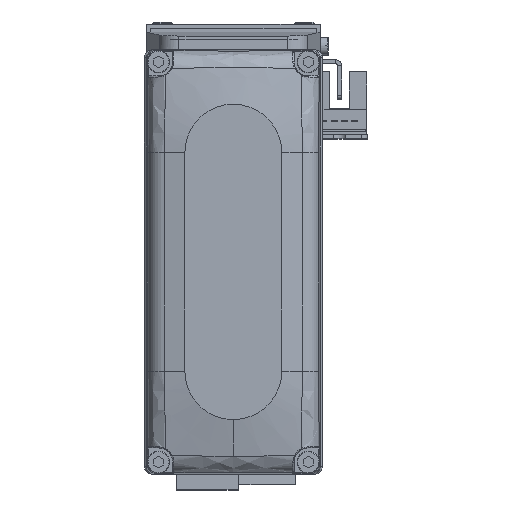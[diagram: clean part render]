
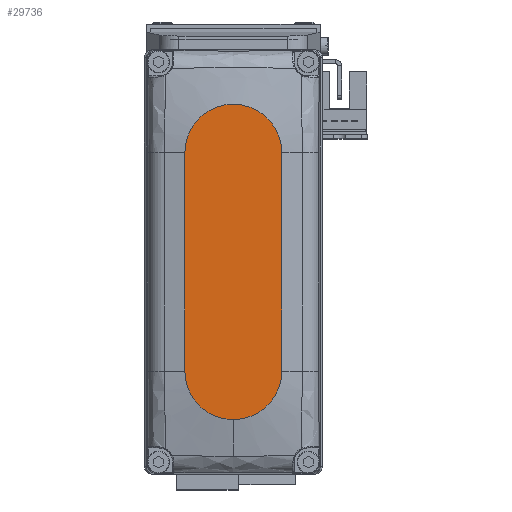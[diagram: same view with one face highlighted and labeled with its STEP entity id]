
A CAD part, top view. The second image highlights one B-rep face of the part: STEP entity #29736.
In plain terms, the highlighted planar face has unit normal (0, 0, 1).
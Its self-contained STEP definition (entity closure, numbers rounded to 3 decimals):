
#528 = CARTESIAN_POINT ( 'NONE',  ( 39., 0., 25. ) ) ;
#715 = LINE ( 'NONE', #12820, #38310 ) ;
#1439 = EDGE_CURVE ( 'NONE', #10622, #22168, #23925, .T. ) ;
#2517 = EDGE_CURVE ( 'NONE', #11120, #19267, #37778, .T. ) ;
#2649 = AXIS2_PLACEMENT_3D ( 'NONE', #11601, #23717, #35823 ) ;
#5355 = CARTESIAN_POINT ( 'NONE',  ( 27., 0., 25. ) ) ;
#5493 = CARTESIAN_POINT ( 'NONE',  ( 27., -12., 25. ) ) ;
#5890 = EDGE_CURVE ( 'NONE', #22168, #18159, #715, .T. ) ;
#6782 = AXIS2_PLACEMENT_3D ( 'NONE', #10592, #22706, #34817 ) ;
#6786 = VECTOR ( 'NONE', #32392, 1000. ) ;
#7444 = DIRECTION ( 'NONE',  ( 0., 0., 1. ) ) ;
#8155 = LINE ( 'NONE', #20284, #6786 ) ;
#8435 = CIRCLE ( 'NONE', #30630, 12. ) ;
#10592 = CARTESIAN_POINT ( 'NONE',  ( -27., 0., 25. ) ) ;
#10622 = VERTEX_POINT ( 'NONE', #29838 ) ;
#10980 = EDGE_CURVE ( 'NONE', #19267, #10622, #8155, .T. ) ;
#11120 = VERTEX_POINT ( 'NONE', #528 ) ;
#11601 = CARTESIAN_POINT ( 'NONE',  ( 0., 0., 25. ) ) ;
#12820 = CARTESIAN_POINT ( 'NONE',  ( -27., -12., 25. ) ) ;
#13595 = ORIENTED_EDGE ( 'NONE', *, *, #2517, .T. ) ;
#17484 = DIRECTION ( 'NONE',  ( 0., 0., 1. ) ) ;
#18159 = VERTEX_POINT ( 'NONE', #5493 ) ;
#19267 = VERTEX_POINT ( 'NONE', #33282 ) ;
#19463 = ORIENTED_EDGE ( 'NONE', *, *, #30868, .T. ) ;
#19573 = DIRECTION ( 'NONE',  ( 1., 0., 0. ) ) ;
#20284 = CARTESIAN_POINT ( 'NONE',  ( -27., 12., 25. ) ) ;
#20666 = AXIS2_PLACEMENT_3D ( 'NONE', #5355, #17484, #29607 ) ;
#21732 = CARTESIAN_POINT ( 'NONE',  ( -27., -12., 25. ) ) ;
#22168 = VERTEX_POINT ( 'NONE', #21732 ) ;
#22706 = DIRECTION ( 'NONE',  ( 0., 0., 1. ) ) ;
#23717 = DIRECTION ( 'NONE',  ( 0., 0., 1. ) ) ;
#23925 = CIRCLE ( 'NONE', #6782, 12. ) ;
#24106 = EDGE_LOOP ( 'NONE', ( #24233, #29375, #30754, #19463, #13595 ) ) ;
#24233 = ORIENTED_EDGE ( 'NONE', *, *, #10980, .T. ) ;
#24945 = DIRECTION ( 'NONE',  ( 1., 0., 0. ) ) ;
#26709 = FACE_OUTER_BOUND ( 'NONE', #24106, .T. ) ;
#29375 = ORIENTED_EDGE ( 'NONE', *, *, #1439, .T. ) ;
#29607 = DIRECTION ( 'NONE',  ( 1., 0., 0. ) ) ;
#29736 = ADVANCED_FACE ( 'NONE', ( #26709 ), #38809, .T. ) ;
#29838 = CARTESIAN_POINT ( 'NONE',  ( -27., 12., 25. ) ) ;
#30630 = AXIS2_PLACEMENT_3D ( 'NONE', #34656, #7444, #19573 ) ;
#30754 = ORIENTED_EDGE ( 'NONE', *, *, #5890, .T. ) ;
#30868 = EDGE_CURVE ( 'NONE', #18159, #11120, #8435, .T. ) ;
#32392 = DIRECTION ( 'NONE',  ( -1., 0., 0. ) ) ;
#33282 = CARTESIAN_POINT ( 'NONE',  ( 27., 12., 25. ) ) ;
#34656 = CARTESIAN_POINT ( 'NONE',  ( 27., 0., 25. ) ) ;
#34817 = DIRECTION ( 'NONE',  ( 1., 0., 0. ) ) ;
#35823 = DIRECTION ( 'NONE',  ( 1., 0., 0. ) ) ;
#37778 = CIRCLE ( 'NONE', #20666, 12. ) ;
#38310 = VECTOR ( 'NONE', #24945, 1000. ) ;
#38809 = PLANE ( 'NONE',  #2649 ) ;
